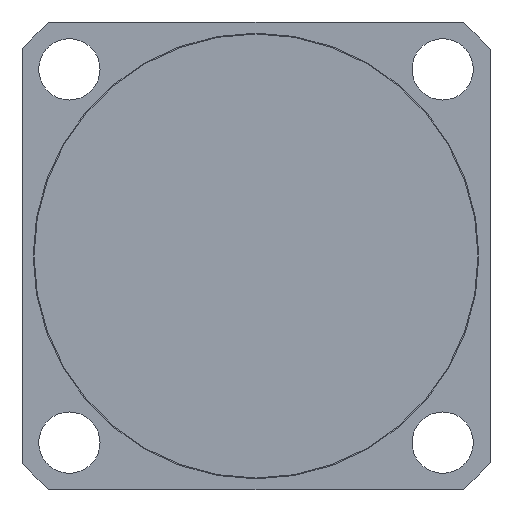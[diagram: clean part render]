
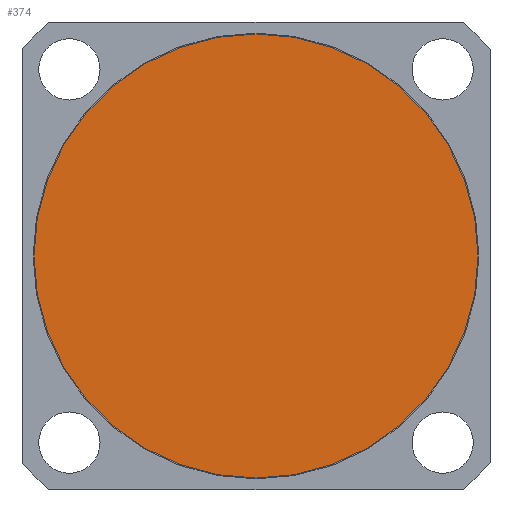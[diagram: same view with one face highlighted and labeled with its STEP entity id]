
A CAD part, front view. The second image highlights one B-rep face of the part: STEP entity #374.
In plain terms, the highlighted planar face has unit normal (0, -1, 0).
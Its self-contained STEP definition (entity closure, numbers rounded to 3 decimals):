
#374 = ADVANCED_FACE( '', ( #876 ), #877, .T. );
#876 = FACE_OUTER_BOUND( '', #1858, .T. );
#877 = PLANE( '', #1859 );
#1858 = EDGE_LOOP( '', ( #3029 ) );
#1859 = AXIS2_PLACEMENT_3D( '', #3030, #3031, #3032 );
#3029 = ORIENTED_EDGE( '', *, *, #6102, .T. );
#3030 = CARTESIAN_POINT( '', ( 0., -86.5, 0. ) );
#3031 = DIRECTION( '', ( 0., -1., 0. ) );
#3032 = DIRECTION( '', ( 1., 0., 0. ) );
#6102 = EDGE_CURVE( '', #7211, #7211, #7212, .T. );
#7211 = VERTEX_POINT( '', #9006 );
#7212 = CIRCLE( '', #9007, 39.85 );
#9006 = CARTESIAN_POINT( '', ( -39.85, -86.5, 0. ) );
#9007 = AXIS2_PLACEMENT_3D( '', #11293, #11294, #11295 );
#11293 = CARTESIAN_POINT( '', ( 0., -86.5, 0. ) );
#11294 = DIRECTION( '', ( 0., -1., 0. ) );
#11295 = DIRECTION( '', ( -1., 0., 0. ) );
